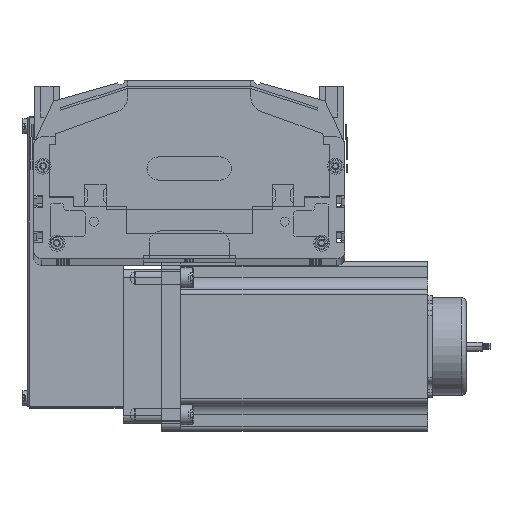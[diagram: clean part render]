
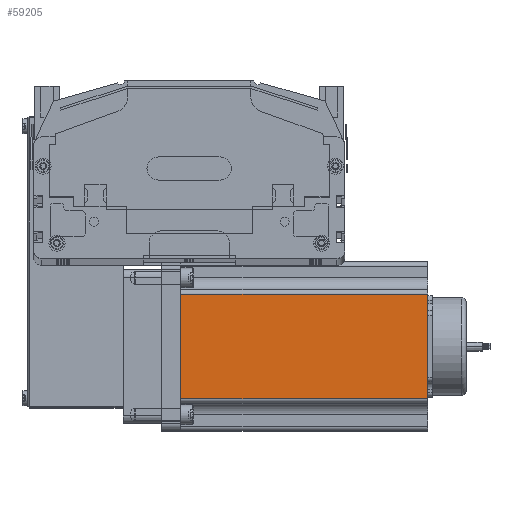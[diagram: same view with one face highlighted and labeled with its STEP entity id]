
A CAD part, top view. The second image highlights one B-rep face of the part: STEP entity #59205.
In plain terms, the highlighted planar face has unit normal (0, 0, 1) as drawn and (0, -1, 0) by its records, which use the part's own axes.
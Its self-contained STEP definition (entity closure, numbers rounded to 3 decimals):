
#59074 = EDGE_CURVE ( 'NONE', #59157, #59289, #64757, .T. ) ;
#59094 = EDGE_CURVE ( 'NONE', #59157, #59187, #64862, .T. ) ;
#59157 = VERTEX_POINT ( 'NONE', #65087 ) ;
#59166 = EDGE_CURVE ( 'NONE', #59171, #59289, #65105, .T. ) ;
#59169 = EDGE_CURVE ( 'NONE', #59187, #59171, #65146, .T. ) ;
#59171 = VERTEX_POINT ( 'NONE', #65137 ) ;
#59181 = ORIENTED_EDGE ( 'NONE', *, *, #59166, .T. ) ;
#59187 = VERTEX_POINT ( 'NONE', #65251 ) ;
#59197 = EDGE_LOOP ( 'NONE', ( #59264, #59181, #59253, #59260 ) ) ;
#59205 = ADVANCED_FACE ( 'NONE', ( #65408 ), #65346, .F. ) ;
#59253 = ORIENTED_EDGE ( 'NONE', *, *, #59074, .F. ) ;
#59260 = ORIENTED_EDGE ( 'NONE', *, *, #59094, .T. ) ;
#59264 = ORIENTED_EDGE ( 'NONE', *, *, #59169, .T. ) ;
#59289 = VERTEX_POINT ( 'NONE', #65780 ) ;
#64749 = DIRECTION ( 'NONE',  ( 1., 0., 0. ) ) ;
#64755 = VECTOR ( 'NONE', #64749, 1000. ) ;
#64756 = CARTESIAN_POINT ( 'NONE',  ( 0., 0., 160.5 ) ) ;
#64757 = LINE ( 'NONE', #64756, #64755 ) ;
#64842 = DIRECTION ( 'NONE',  ( 0., 0., -1. ) ) ;
#64843 = VECTOR ( 'NONE', #64842, 1000. ) ;
#64861 = CARTESIAN_POINT ( 'NONE',  ( 21.048, 0., 160.5 ) ) ;
#64862 = LINE ( 'NONE', #64861, #64843 ) ;
#65087 = CARTESIAN_POINT ( 'NONE',  ( 21.048, 0., 160.5 ) ) ;
#65103 = CARTESIAN_POINT ( 'NONE',  ( 88.952, 0., 160.5 ) ) ;
#65105 = LINE ( 'NONE', #65103, #65199 ) ;
#65122 = CARTESIAN_POINT ( 'NONE',  ( 0., 0., 160.5 ) ) ;
#65132 = DIRECTION ( 'NONE',  ( 1., 0., 0. ) ) ;
#65134 = VECTOR ( 'NONE', #65132, 1000. ) ;
#65137 = CARTESIAN_POINT ( 'NONE',  ( 88.952, 0., 0. ) ) ;
#65144 = CARTESIAN_POINT ( 'NONE',  ( 0., 0., 0. ) ) ;
#65146 = LINE ( 'NONE', #65144, #65134 ) ;
#65198 = DIRECTION ( 'NONE',  ( 0., 0., 1. ) ) ;
#65199 = VECTOR ( 'NONE', #65198, 1000. ) ;
#65251 = CARTESIAN_POINT ( 'NONE',  ( 21.048, 0., 0. ) ) ;
#65339 = AXIS2_PLACEMENT_3D ( 'NONE', #65122, #65404, #65388 ) ;
#65346 = PLANE ( 'NONE',  #65339 ) ;
#65388 = DIRECTION ( 'NONE',  ( 0., 0., 1. ) ) ;
#65404 = DIRECTION ( 'NONE',  ( 0., 1., 0. ) ) ;
#65408 = FACE_OUTER_BOUND ( 'NONE', #59197, .T. ) ;
#65780 = CARTESIAN_POINT ( 'NONE',  ( 88.952, 0., 160.5 ) ) ;
